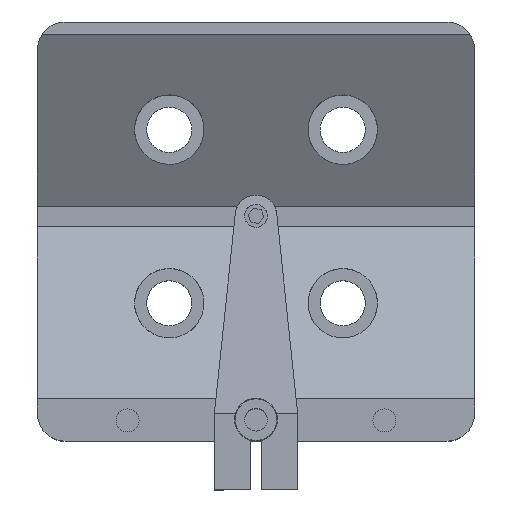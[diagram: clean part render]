
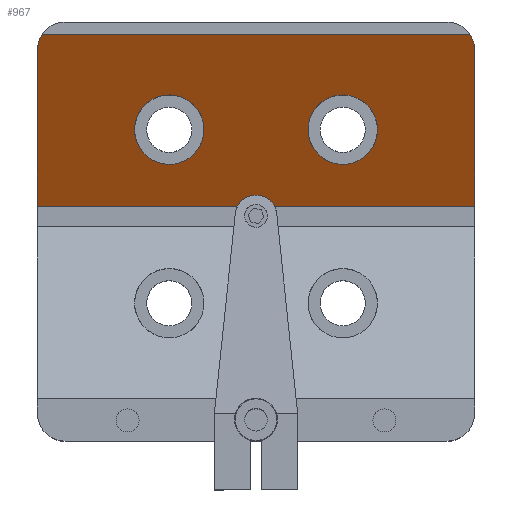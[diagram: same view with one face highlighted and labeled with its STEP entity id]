
A CAD part, top view. The second image highlights one B-rep face of the part: STEP entity #967.
In plain terms, the highlighted planar face has unit normal (0, -0.5, 0.866).
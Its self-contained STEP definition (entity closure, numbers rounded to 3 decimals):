
#7 = CARTESIAN_POINT ( 'NONE',  ( 31.5, 3.7, 10.7 ) ) ;
#17 = VERTEX_POINT ( 'NONE', #3421 ) ;
#98 = CARTESIAN_POINT ( 'NONE',  ( -31.5, 27.016, 24.162 ) ) ;
#125 = CARTESIAN_POINT ( 'NONE',  ( 30.795, 28.468, 25. ) ) ;
#132 = ORIENTED_EDGE ( 'NONE', *, *, #2984, .T. ) ;
#147 = EDGE_CURVE ( 'NONE', #3491, #2542, #2694, .T. ) ;
#153 = CARTESIAN_POINT ( 'NONE',  ( 7.5, 14.7, 17.051 ) ) ;
#163 = DIRECTION ( 'NONE',  ( 1., 0., 0. ) ) ;
#218 = EDGE_CURVE ( 'NONE', #2542, #961, #3428, .T. ) ;
#251 = CARTESIAN_POINT ( 'NONE',  ( 17.5, 24.7, 22.824 ) ) ;
#255 =( BOUNDED_CURVE ( )  B_SPLINE_CURVE ( 3, ( #1707, #2500, #2537, #125 ),
 .UNSPECIFIED., .F., .F. ) 
 B_SPLINE_CURVE_WITH_KNOTS ( ( 4, 4 ),
 ( 1.571, 2.174 ),
 .UNSPECIFIED. ) 
 CURVE ( )  GEOMETRIC_REPRESENTATION_ITEM ( )  RATIONAL_B_SPLINE_CURVE ( ( 1., 0.97, 0.97, 1. ) ) 
 REPRESENTATION_ITEM ( '' )  );
#292 = ORIENTED_EDGE ( 'NONE', *, *, #2320, .T. ) ;
#295 = ORIENTED_EDGE ( 'NONE', *, *, #1194, .T. ) ;
#307 = CARTESIAN_POINT ( 'NONE',  ( -17.5, 24.7, 22.824 ) ) ;
#327 = VERTEX_POINT ( 'NONE', #2677 ) ;
#355 = CARTESIAN_POINT ( 'NONE',  ( -31.5, 3.7, 10.7 ) ) ;
#360 = EDGE_LOOP ( 'NONE', ( #295, #292 ) ) ;
#481 = DIRECTION ( 'NONE',  ( 0., 0.5, -0.866 ) ) ;
#494 = ORIENTED_EDGE ( 'NONE', *, *, #2476, .T. ) ;
#509 = FACE_BOUND ( 'NONE', #360, .T. ) ;
#511 = EDGE_CURVE ( 'NONE', #3491, #1203, #1361, .T. ) ;
#566 = CARTESIAN_POINT ( 'NONE',  ( -31.5, 28.468, 25. ) ) ;
#584 = ORIENTED_EDGE ( 'NONE', *, *, #511, .F. ) ;
#585 = EDGE_CURVE ( 'NONE', #3459, #17, #1192, .T. ) ;
#627 = DIRECTION ( 'NONE',  ( 0., 0.866, 0.5 ) ) ;
#684 = FACE_BOUND ( 'NONE', #1543, .T. ) ;
#713 = EDGE_CURVE ( 'NONE', #3459, #1203, #2896, .T. ) ;
#746 = CARTESIAN_POINT ( 'NONE',  ( 31.5, 26.2, 23.69 ) ) ;
#764 = EDGE_LOOP ( 'NONE', ( #2447, #584, #1903, #3417, #494, #1644 ) ) ;
#772 = FACE_OUTER_BOUND ( 'NONE', #764, .T. ) ;
#792 = CARTESIAN_POINT ( 'NONE',  ( 7.5, 24.7, 22.824 ) ) ;
#897 = CARTESIAN_POINT ( 'NONE',  ( -31.258, 27.796, 24.612 ) ) ;
#961 = VERTEX_POINT ( 'NONE', #746 ) ;
#967 = ADVANCED_FACE ( 'NONE', ( #684, #509, #772 ), #2674, .F. ) ;
#1011 = VERTEX_POINT ( 'NONE', #1016 ) ;
#1016 = CARTESIAN_POINT ( 'NONE',  ( 17.5, 14.7, 17.051 ) ) ;
#1092 = AXIS2_PLACEMENT_3D ( 'NONE', #2378, #481, #3476 ) ;
#1141 =( BOUNDED_CURVE ( )  B_SPLINE_CURVE ( 3, ( #1936, #2475, #1369, #1672 ),
 .UNSPECIFIED., .F., .F. ) 
 B_SPLINE_CURVE_WITH_KNOTS ( ( 4, 4 ),
 ( 1.571, 4.712 ),
 .UNSPECIFIED. ) 
 CURVE ( )  GEOMETRIC_REPRESENTATION_ITEM ( )  RATIONAL_B_SPLINE_CURVE ( ( 1., 0.333, 0.333, 1. ) ) 
 REPRESENTATION_ITEM ( '' )  );
#1188 = VERTEX_POINT ( 'NONE', #2466 ) ;
#1192 = LINE ( 'NONE', #566, #2250 ) ;
#1194 = EDGE_CURVE ( 'NONE', #1011, #3034, #1141, .T. ) ;
#1203 = VERTEX_POINT ( 'NONE', #3005 ) ;
#1361 = LINE ( 'NONE', #355, #2088 ) ;
#1369 = CARTESIAN_POINT ( 'NONE',  ( 7.5, 4.7, 11.277 ) ) ;
#1394 = CARTESIAN_POINT ( 'NONE',  ( -17.5, 14.7, 17.051 ) ) ;
#1537 = CARTESIAN_POINT ( 'NONE',  ( -31.5, 3.7, 10.7 ) ) ;
#1543 = EDGE_LOOP ( 'NONE', ( #132, #3195 ) ) ;
#1644 = ORIENTED_EDGE ( 'NONE', *, *, #585, .F. ) ;
#1653 = CARTESIAN_POINT ( 'NONE',  ( -7.5, 24.7, 22.824 ) ) ;
#1667 = VECTOR ( 'NONE', #2390, 1000. ) ;
#1672 = CARTESIAN_POINT ( 'NONE',  ( 7.5, 14.7, 17.051 ) ) ;
#1707 = CARTESIAN_POINT ( 'NONE',  ( 31.5, 26.2, 23.69 ) ) ;
#1709 = VECTOR ( 'NONE', #163, 1000. ) ;
#1759 = CARTESIAN_POINT ( 'NONE',  ( -30.795, 28.468, 25. ) ) ;
#1782 = EDGE_CURVE ( 'NONE', #1188, #327, #2628, .T. ) ;
#1783 = CARTESIAN_POINT ( 'NONE',  ( -17.5, 14.7, 17.051 ) ) ;
#1902 = DIRECTION ( 'NONE',  ( 1., 0., 0. ) ) ;
#1903 = ORIENTED_EDGE ( 'NONE', *, *, #147, .T. ) ;
#1936 = CARTESIAN_POINT ( 'NONE',  ( 17.5, 14.7, 17.051 ) ) ;
#2049 =( BOUNDED_CURVE ( )  B_SPLINE_CURVE ( 3, ( #2533, #3420, #3190, #1783 ),
 .UNSPECIFIED., .F., .F. ) 
 B_SPLINE_CURVE_WITH_KNOTS ( ( 4, 4 ),
 ( 1.571, 4.712 ),
 .UNSPECIFIED. ) 
 CURVE ( )  GEOMETRIC_REPRESENTATION_ITEM ( )  RATIONAL_B_SPLINE_CURVE ( ( 1., 0.333, 0.333, 1. ) ) 
 REPRESENTATION_ITEM ( '' )  );
#2088 = VECTOR ( 'NONE', #627, 1000. ) ;
#2153 = CARTESIAN_POINT ( 'NONE',  ( 17.5, 14.7, 17.051 ) ) ;
#2250 = VECTOR ( 'NONE', #1902, 1000. ) ;
#2266 = CARTESIAN_POINT ( 'NONE',  ( -30.795, 28.468, 25. ) ) ;
#2320 = EDGE_CURVE ( 'NONE', #3034, #1011, #3423, .T. ) ;
#2378 = CARTESIAN_POINT ( 'NONE',  ( -31.5, 3.7, 10.7 ) ) ;
#2387 = CARTESIAN_POINT ( 'NONE',  ( 7.5, 14.7, 17.051 ) ) ;
#2390 = DIRECTION ( 'NONE',  ( 0., 0.866, 0.5 ) ) ;
#2447 = ORIENTED_EDGE ( 'NONE', *, *, #713, .T. ) ;
#2466 = CARTESIAN_POINT ( 'NONE',  ( -17.5, 14.7, 17.051 ) ) ;
#2475 = CARTESIAN_POINT ( 'NONE',  ( 17.5, 4.7, 11.277 ) ) ;
#2476 = EDGE_CURVE ( 'NONE', #961, #17, #255, .T. ) ;
#2500 = CARTESIAN_POINT ( 'NONE',  ( 31.5, 27.016, 24.162 ) ) ;
#2533 = CARTESIAN_POINT ( 'NONE',  ( -7.5, 14.7, 17.051 ) ) ;
#2537 = CARTESIAN_POINT ( 'NONE',  ( 31.258, 27.796, 24.612 ) ) ;
#2542 = VERTEX_POINT ( 'NONE', #3075 ) ;
#2628 =( BOUNDED_CURVE ( )  B_SPLINE_CURVE ( 3, ( #1394, #307, #1653, #3027 ),
 .UNSPECIFIED., .F., .T. ) 
 B_SPLINE_CURVE_WITH_KNOTS ( ( 4, 4 ),
 ( 4.712, 7.854 ),
 .UNSPECIFIED. ) 
 CURVE ( )  GEOMETRIC_REPRESENTATION_ITEM ( )  RATIONAL_B_SPLINE_CURVE ( ( 1., 0.333, 0.333, 1. ) ) 
 REPRESENTATION_ITEM ( '' )  );
#2674 = PLANE ( 'NONE',  #1092 ) ;
#2677 = CARTESIAN_POINT ( 'NONE',  ( -7.5, 14.7, 17.051 ) ) ;
#2694 = LINE ( 'NONE', #1537, #1709 ) ;
#2832 = CARTESIAN_POINT ( 'NONE',  ( -31.5, 26.2, 23.69 ) ) ;
#2896 =( BOUNDED_CURVE ( )  B_SPLINE_CURVE ( 3, ( #1759, #897, #98, #2832 ),
 .UNSPECIFIED., .F., .F. ) 
 B_SPLINE_CURVE_WITH_KNOTS ( ( 4, 4 ),
 ( 4.109, 4.712 ),
 .UNSPECIFIED. ) 
 CURVE ( )  GEOMETRIC_REPRESENTATION_ITEM ( )  RATIONAL_B_SPLINE_CURVE ( ( 1., 0.97, 0.97, 1. ) ) 
 REPRESENTATION_ITEM ( '' )  );
#2984 = EDGE_CURVE ( 'NONE', #327, #1188, #2049, .T. ) ;
#3005 = CARTESIAN_POINT ( 'NONE',  ( -31.5, 26.2, 23.69 ) ) ;
#3027 = CARTESIAN_POINT ( 'NONE',  ( -7.5, 14.7, 17.051 ) ) ;
#3034 = VERTEX_POINT ( 'NONE', #153 ) ;
#3075 = CARTESIAN_POINT ( 'NONE',  ( 31.5, 3.7, 10.7 ) ) ;
#3190 = CARTESIAN_POINT ( 'NONE',  ( -17.5, 4.7, 11.277 ) ) ;
#3195 = ORIENTED_EDGE ( 'NONE', *, *, #1782, .T. ) ;
#3405 = CARTESIAN_POINT ( 'NONE',  ( -31.5, 3.7, 10.7 ) ) ;
#3417 = ORIENTED_EDGE ( 'NONE', *, *, #218, .T. ) ;
#3420 = CARTESIAN_POINT ( 'NONE',  ( -7.5, 4.7, 11.277 ) ) ;
#3421 = CARTESIAN_POINT ( 'NONE',  ( 30.795, 28.468, 25. ) ) ;
#3423 =( BOUNDED_CURVE ( )  B_SPLINE_CURVE ( 3, ( #2387, #792, #251, #2153 ),
 .UNSPECIFIED., .F., .T. ) 
 B_SPLINE_CURVE_WITH_KNOTS ( ( 4, 4 ),
 ( 4.712, 7.854 ),
 .UNSPECIFIED. ) 
 CURVE ( )  GEOMETRIC_REPRESENTATION_ITEM ( )  RATIONAL_B_SPLINE_CURVE ( ( 1., 0.333, 0.333, 1. ) ) 
 REPRESENTATION_ITEM ( '' )  );
#3428 = LINE ( 'NONE', #7, #1667 ) ;
#3459 = VERTEX_POINT ( 'NONE', #2266 ) ;
#3476 = DIRECTION ( 'NONE',  ( 0., 0.866, 0.5 ) ) ;
#3491 = VERTEX_POINT ( 'NONE', #3405 ) ;
